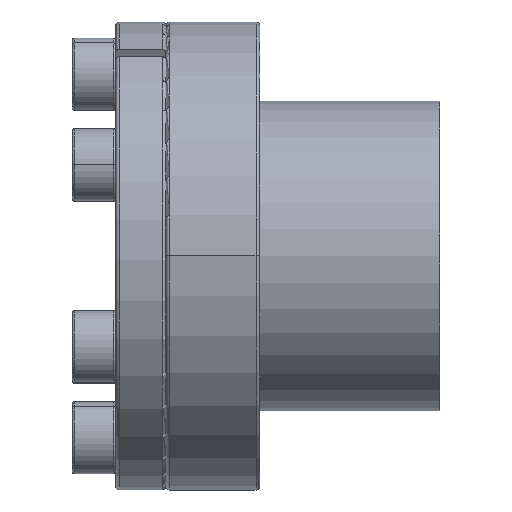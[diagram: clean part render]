
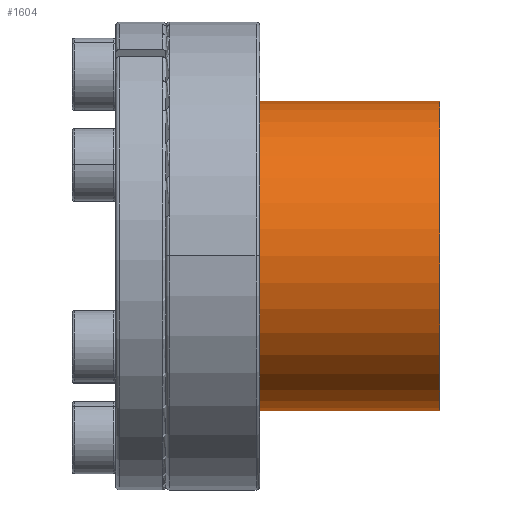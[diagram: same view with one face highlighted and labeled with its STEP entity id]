
A CAD part, top view. The second image highlights one B-rep face of the part: STEP entity #1604.
In plain terms, the highlighted cylindrical face has radius 21.5 mm (diameter 43 mm), a partial arc.
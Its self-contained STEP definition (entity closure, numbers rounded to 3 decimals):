
#165 = CARTESIAN_POINT ( 'NONE',  ( 0., 0., 0. ) ) ;
#330 = DIRECTION ( 'NONE',  ( 1., 0., 0. ) ) ;
#592 = VERTEX_POINT ( 'NONE', #3666 ) ;
#672 = VERTEX_POINT ( 'NONE', #968 ) ;
#780 = CIRCLE ( 'NONE', #1474, 21.5 ) ;
#786 = CYLINDRICAL_SURFACE ( 'NONE', #2498, 21.5 ) ;
#968 = CARTESIAN_POINT ( 'NONE',  ( -25., 21.5, 0. ) ) ;
#1161 = LINE ( 'NONE', #1495, #6003 ) ;
#1260 = DIRECTION ( 'NONE',  ( 0., 1., 0. ) ) ;
#1386 = DIRECTION ( 'NONE',  ( 1., 0., 0. ) ) ;
#1474 = AXIS2_PLACEMENT_3D ( 'NONE', #4136, #1386, #4738 ) ;
#1495 = CARTESIAN_POINT ( 'NONE',  ( 0., -21.5, 0. ) ) ;
#1604 = ADVANCED_FACE ( 'NONE', ( #3572 ), #786, .T. ) ;
#2447 = DIRECTION ( 'NONE',  ( 1., 0., 0. ) ) ;
#2498 = AXIS2_PLACEMENT_3D ( 'NONE', #6109, #330, #6677 ) ;
#2620 = CARTESIAN_POINT ( 'NONE',  ( 0., -21.5, 0. ) ) ;
#2749 = EDGE_CURVE ( 'NONE', #672, #6719, #780, .T. ) ;
#2753 = CIRCLE ( 'NONE', #4132, 21.5 ) ;
#2956 = LINE ( 'NONE', #6315, #3039 ) ;
#3039 = VECTOR ( 'NONE', #7405, 1000. ) ;
#3147 = EDGE_CURVE ( 'NONE', #672, #592, #2956, .T. ) ;
#3155 = EDGE_LOOP ( 'NONE', ( #3763, #4570, #4509, #5071 ) ) ;
#3572 = FACE_OUTER_BOUND ( 'NONE', #3155, .T. ) ;
#3666 = CARTESIAN_POINT ( 'NONE',  ( 0., 21.5, 0. ) ) ;
#3763 = ORIENTED_EDGE ( 'NONE', *, *, #2749, .T. ) ;
#4033 = EDGE_CURVE ( 'NONE', #6719, #6130, #1161, .T. ) ;
#4132 = AXIS2_PLACEMENT_3D ( 'NONE', #165, #2447, #1260 ) ;
#4136 = CARTESIAN_POINT ( 'NONE',  ( -25., 0., 0. ) ) ;
#4509 = ORIENTED_EDGE ( 'NONE', *, *, #6393, .F. ) ;
#4570 = ORIENTED_EDGE ( 'NONE', *, *, #4033, .T. ) ;
#4738 = DIRECTION ( 'NONE',  ( 0., 1., 0. ) ) ;
#5071 = ORIENTED_EDGE ( 'NONE', *, *, #3147, .F. ) ;
#5589 = CARTESIAN_POINT ( 'NONE',  ( -25., -21.5, 0. ) ) ;
#6003 = VECTOR ( 'NONE', #6680, 1000. ) ;
#6109 = CARTESIAN_POINT ( 'NONE',  ( 0., 0., 0. ) ) ;
#6130 = VERTEX_POINT ( 'NONE', #2620 ) ;
#6315 = CARTESIAN_POINT ( 'NONE',  ( 0., 21.5, 0. ) ) ;
#6393 = EDGE_CURVE ( 'NONE', #592, #6130, #2753, .T. ) ;
#6677 = DIRECTION ( 'NONE',  ( 0., 1., 0. ) ) ;
#6680 = DIRECTION ( 'NONE',  ( 1., 0., 0. ) ) ;
#6719 = VERTEX_POINT ( 'NONE', #5589 ) ;
#7405 = DIRECTION ( 'NONE',  ( 1., 0., 0. ) ) ;
